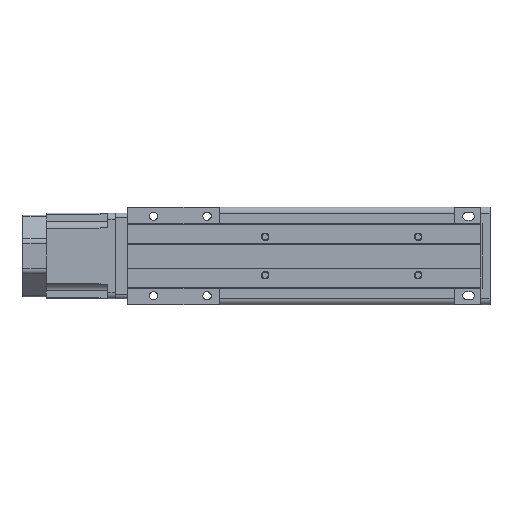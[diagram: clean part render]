
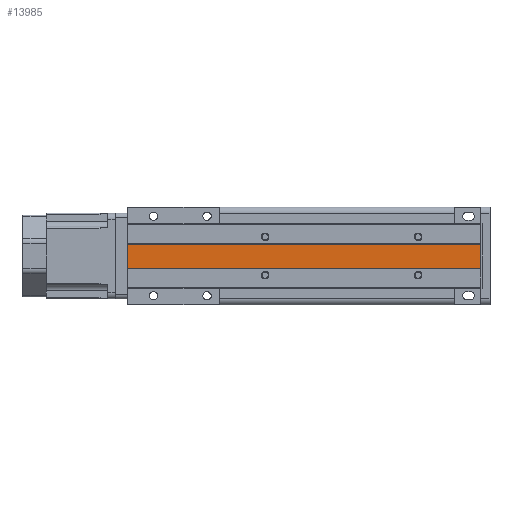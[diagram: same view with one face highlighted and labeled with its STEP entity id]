
A CAD part, front view. The second image highlights one B-rep face of the part: STEP entity #13985.
In plain terms, the highlighted planar face has unit normal (0, -1, 0).
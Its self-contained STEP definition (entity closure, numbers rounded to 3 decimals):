
#608=PLANE('',#23093);
#1942=VERTEX_POINT('',#19355);
#1943=VERTEX_POINT('',#19357);
#1944=VERTEX_POINT('',#19361);
#1945=VERTEX_POINT('',#19363);
#3161=VECTOR('',#15490,1.);
#3163=VECTOR('',#15493,1.);
#3164=VECTOR('',#15494,1.);
#3165=VECTOR('',#15495,1.);
#4659=LINE('',#19356,#3161);
#4661=LINE('',#19360,#3163);
#4662=LINE('',#19362,#3164);
#4663=LINE('',#19364,#3165);
#6306=EDGE_CURVE('',#1943,#1942,#4659,.T.);
#6308=EDGE_CURVE('',#1942,#1944,#4661,.T.);
#6309=EDGE_CURVE('',#1945,#1944,#4662,.T.);
#6310=EDGE_CURVE('',#1945,#1943,#4663,.T.);
#8455=ORIENTED_EDGE('',*,*,#6308,.T.);
#8456=ORIENTED_EDGE('',*,*,#6309,.F.);
#8457=ORIENTED_EDGE('',*,*,#6310,.T.);
#8458=ORIENTED_EDGE('',*,*,#6306,.T.);
#12201=EDGE_LOOP('',(#8455,#8456,#8457,#8458));
#13096=FACE_BOUND('',#12201,.T.);
#13985=ADVANCED_FACE('',(#13096),#608,.T.);
#15490=DIRECTION('',(1.,0.,0.));
#15492=DIRECTION('',(0.,-1.,0.));
#15493=DIRECTION('',(0.,0.,1.));
#15494=DIRECTION('',(1.,0.,0.));
#15495=DIRECTION('',(0.,0.,-1.));
#19355=CARTESIAN_POINT('',(179.,0.3,-8.));
#19356=CARTESIAN_POINT('',(-52.,0.3,-8.));
#19357=CARTESIAN_POINT('',(-52.,0.3,-8.));
#19359=CARTESIAN_POINT('',(-52.,0.3,-8.));
#19360=CARTESIAN_POINT('',(179.,0.3,7.7));
#19361=CARTESIAN_POINT('',(179.,0.3,7.7));
#19362=CARTESIAN_POINT('',(-52.,0.3,7.7));
#19363=CARTESIAN_POINT('',(-52.,0.3,7.7));
#19364=CARTESIAN_POINT('',(-52.,0.3,7.7));
#23093=AXIS2_PLACEMENT_3D('',#19359,#15492,$);
